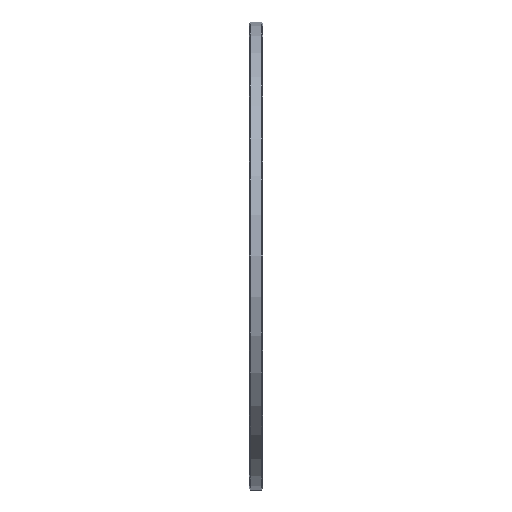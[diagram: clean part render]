
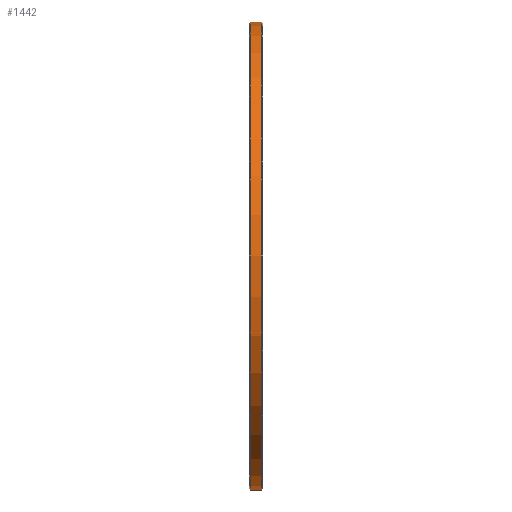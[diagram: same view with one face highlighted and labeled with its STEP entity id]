
A CAD part, left-side view. The second image highlights one B-rep face of the part: STEP entity #1442.
In plain terms, the highlighted cylindrical face has radius 677.5 mm (diameter 1355 mm), a full revolution.
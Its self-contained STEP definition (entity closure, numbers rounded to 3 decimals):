
#278=ORIENTED_EDGE('',*,*,#488,.T.);
#279=ORIENTED_EDGE('',*,*,#489,.T.);
#488=EDGE_CURVE('',#624,#624,#760,.F.);
#489=EDGE_CURVE('',#625,#625,#761,.T.);
#624=VERTEX_POINT('',#2536);
#625=VERTEX_POINT('',#2538);
#760=CIRCLE('',#1686,677.5);
#761=CIRCLE('',#1687,677.5);
#958=EDGE_LOOP('',(#278));
#959=EDGE_LOOP('',(#279));
#1230=FACE_BOUND('',#958,.T.);
#1231=FACE_BOUND('',#959,.T.);
#1346=CYLINDRICAL_SURFACE('',#1685,677.5);
#1442=ADVANCED_FACE('',(#1230,#1231),#1346,.T.);
#1685=AXIS2_PLACEMENT_3D('',#2534,#2147,#2148);
#1686=AXIS2_PLACEMENT_3D('',#2535,#2149,#2150);
#1687=AXIS2_PLACEMENT_3D('',#2537,#2151,#2152);
#2147=DIRECTION('',(0.,-1.,0.));
#2148=DIRECTION('',(0.,0.,-1.));
#2149=DIRECTION('',(0.,1.,0.));
#2150=DIRECTION('',(0.,0.,1.));
#2151=DIRECTION('',(0.,1.,0.));
#2152=DIRECTION('',(0.,0.,1.));
#2534=CARTESIAN_POINT('',(0.,38.,0.));
#2535=CARTESIAN_POINT('',(0.,35.,0.));
#2536=CARTESIAN_POINT('',(0.,35.,677.5));
#2537=CARTESIAN_POINT('',(0.,3.,0.));
#2538=CARTESIAN_POINT('',(0.,3.,677.5));
